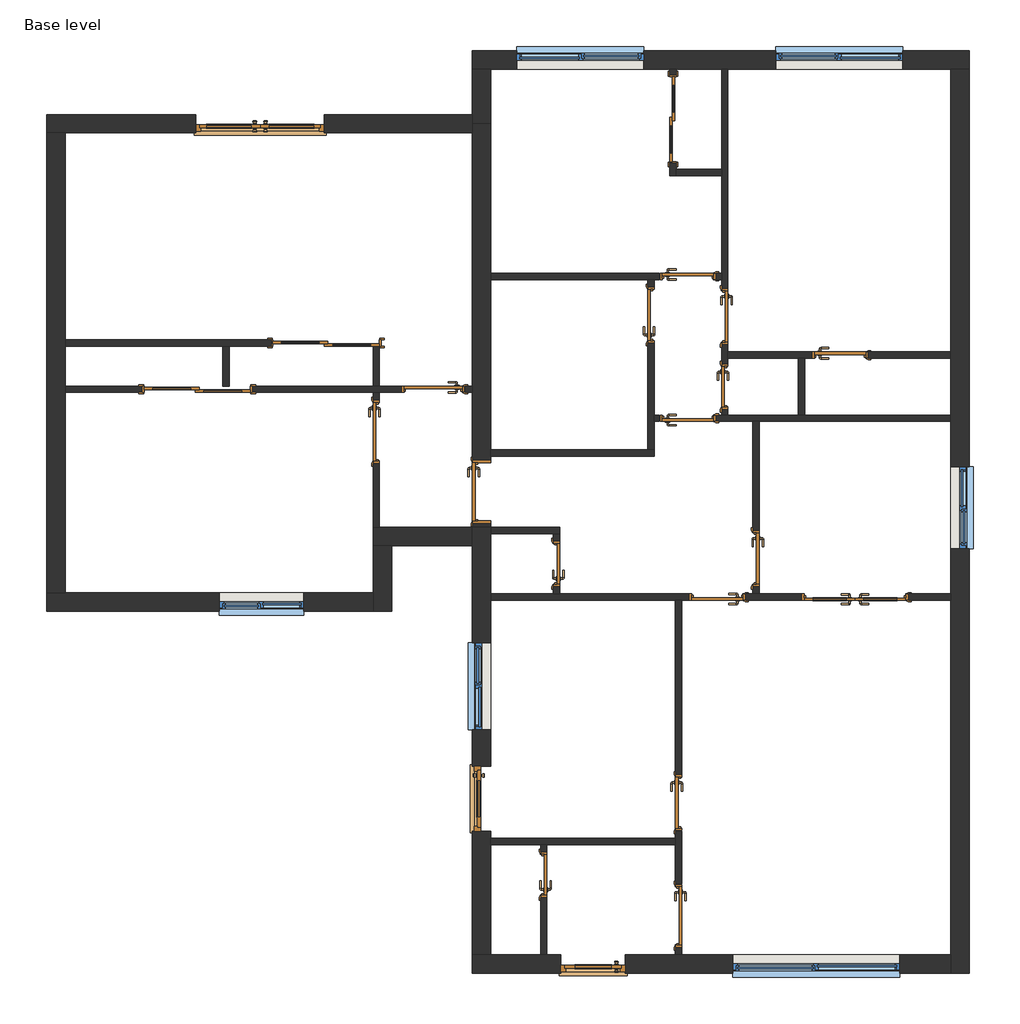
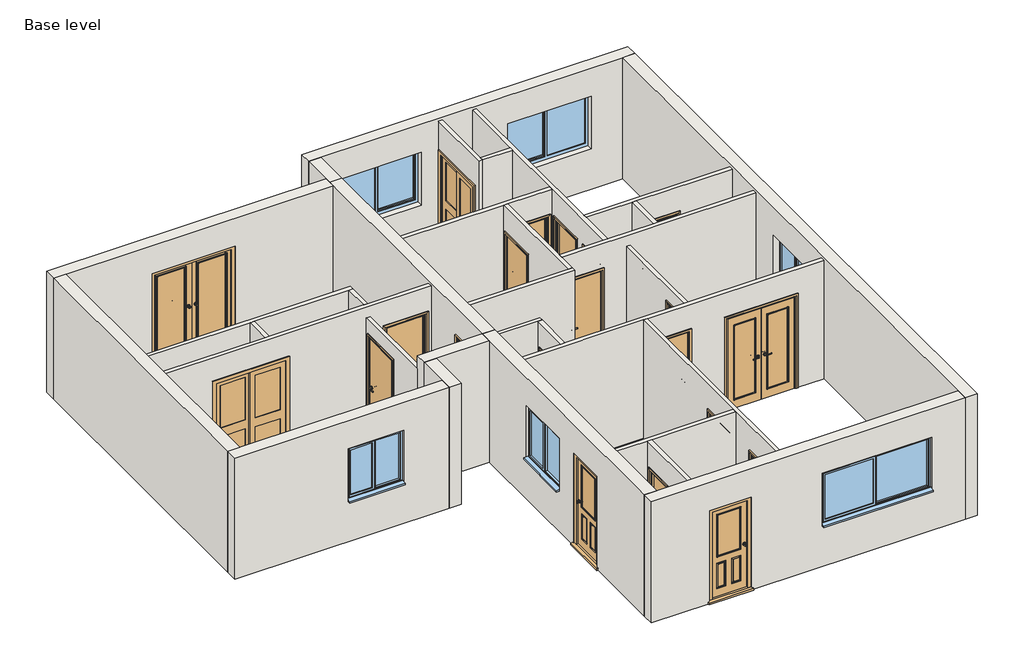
# One storey: 32 walls, 22 doors, 6 windows.
"""IFC4 building model written with IfcOpenShell, lengths in millimetres."""

from ifc_helpers import new_model, si_unit, frame, origin, origin_with_axes, place, context, project, spatial, polyline, outline, extrude, faceted_brep, transform, mapped, element, save
from components import doors_extdbl_w_glazing_bars_1_1810x2110mm_a288015c, doors_extsgl_w_glazing_bars_2_910x2110mm_256fbd00, doors_extsgl_w_glazing_bars_2_910x2110mm_80f539a4, doors_intdbl_7_1510x2110mm_5c3abf43, doors_intsgl_ds_650x2110mm_b960198f, doors_intsgl_ds_800x2110mm_b6fedfb1, doors_intsgl_ds_800x2110mm_65b095ba, doors_intsgl_ds_900x2110mm_f6cef332, doors_intsgl_ds_900x2110mm_836c2f7c, doors_intsgl_ds_900x2110mm_d1397bd0, m_door_interior_double_sliding_2_panel_wood_1200_x_2000mm_8d1b384f, m_door_interior_double_sliding_2_panel_wood_1500_x_2100mm_1f0085da, windows_concept_plain_dbl_ds_1150_x_1200_ffe28008, windows_concept_plain_dbl_ds_1190_x_1200_79a845ba, windows_concept_plain_dbl_ds_1220_x_1200_8969c727, windows_concept_plain_dbl_ds_1790_x_1200_683bd13a, windows_concept_plain_dbl_ds_1790_x_1200_d2fe6dab, windows_concept_plain_dbl_ds_2350_x_1200_e312b389

model = new_model("IFC4")

# Units and contexts
model_context = context("Model", 3, world=origin())
ifc_project = project(units=[si_unit("LENGTHUNIT", "METRE", prefix="MILLI")], contexts=[model_context])

# Site, building, storey
site = spatial("IfcSite", under=ifc_project)
building = spatial("IfcBuilding", under=site)
storey = spatial("IfcBuildingStorey", under=building, Name="Base level", Elevation=0.0)

# Doors
placement = place(None, origin())
doors_extdbl_w_glazing_bars_1_1810x2110mm_shape = doors_extdbl_w_glazing_bars_1_1810x2110mm_a288015c(model_context)
element("IfcDoor", 1, ObjectType="Doors_ExtDbl_w-Glazing_Bars_1 : 1810x2110mm", at=placement, inside=storey, context=model_context, shape_type="MappedRepresentation", body=[
    mapped(doors_extdbl_w_glazing_bars_1_1810x2110mm_shape, transform((1656.9262115, 11431.973125, 0.0), x_axis=(-1.0, 0.0, 0.0), y_axis=(0.0, -1.0, 0.0), z_axis=(0.0, 0.0, 1.0))),
])
doors_extsgl_w_glazing_bars_2_910x2110mm_shape = doors_extsgl_w_glazing_bars_2_910x2110mm_256fbd00(model_context)
element("IfcDoor", 2, ObjectType="Doors_ExtSgl_w-Glazing_Bars_2 : 910x2110mm", at=placement, inside=storey, context=model_context, shape_type="MappedRepresentation", body=[
    mapped(doors_extsgl_w_glazing_bars_2_910x2110mm_shape, transform((6346.9262115, -408.026875, 0.0), x_axis=(-1.0, 0.0, 0.0), y_axis=(0.0, -1.0, 0.0), z_axis=(0.0, 0.0, 1.0))),
])
doors_extsgl_w_glazing_bars_2_910x2110mm_2_shape = doors_extsgl_w_glazing_bars_2_910x2110mm_80f539a4(model_context)
element("IfcDoor", 3, ObjectType="Doors_ExtSgl_w-Glazing_Bars_2 : 910x2110mm", at=placement, inside=storey, context=model_context, shape_type="MappedRepresentation", body=[
    mapped(doors_extsgl_w_glazing_bars_2_910x2110mm_2_shape, transform((4776.9262115, 1921.973125, 0.0), x_axis=(0.0, -1.0, 0.0), y_axis=(1.0, 0.0, 0.0), z_axis=(0.0, 0.0, 1.0))),
])
doors_intdbl_7_1510x2110mm_shape = doors_intdbl_7_1510x2110mm_5c3abf43(model_context)
element("IfcDoor", 4, ObjectType="Doors_IntDbl_7 : 1510x2110mm", at=placement, inside=storey, context=model_context, shape_type="MappedRepresentation", body=[
    mapped(doors_intdbl_7_1510x2110mm_shape, transform((10036.9262115, 4761.973125, 0.0), x_axis=(-1.0, 0.0, 0.0), y_axis=(0.0, -1.0, 0.0), z_axis=(0.0, 0.0, 1.0))),
])
doors_intsgl_ds_650x2110mm_shape = doors_intsgl_ds_650x2110mm_b960198f(model_context)
element("IfcDoor", 5, ObjectType="Doors_IntSgl : DS - 650x2110mm", at=placement, inside=storey, context=model_context, shape_type="MappedRepresentation", body=[
    mapped(doors_intsgl_ds_650x2110mm_shape, transform((5831.9262115, 5231.973125, 0.0), x_axis=(0.0, 1.0, 0.0), y_axis=(-1.0, 0.0, 0.0), z_axis=(0.0, 0.0, 1.0))),
])
element("IfcDoor", 6, ObjectType="Doors_IntSgl : DS - 650x2110mm", at=placement, inside=storey, context=model_context, shape_type="MappedRepresentation", body=[
    mapped(doors_intsgl_ds_650x2110mm_shape, transform((5651.9262115, 851.973125, 0.0), x_axis=(0.0, 1.0, 0.0), y_axis=(-1.0, 0.0, 0.0), z_axis=(0.0, 0.0, 1.0))),
])
element("IfcDoor", 7, ObjectType="Doors_IntSgl : DS - 650x2110mm", at=placement, inside=storey, context=model_context, shape_type="MappedRepresentation", body=[
    mapped(doors_intsgl_ds_650x2110mm_shape, transform((8201.9262115, 7726.973125, 0.0), x_axis=(0.0, -1.0, 0.0), y_axis=(1.0, 0.0, 0.0), z_axis=(0.0, 0.0, 1.0))),
])
doors_intsgl_ds_800x2110mm_shape = doors_intsgl_ds_800x2110mm_b6fedfb1(model_context)
element("IfcDoor", 8, ObjectType="Doors_IntSgl : DS - 800x2110mm", at=placement, inside=storey, context=model_context, shape_type="MappedRepresentation", body=[
    mapped(doors_intsgl_ds_800x2110mm_shape, transform((7681.9262115, 7281.973125, 0.0), x_axis=(1.0, 0.0, 0.0), y_axis=(0.0, 1.0, 0.0), z_axis=(0.0, 0.0, 1.0))),
])
element("IfcDoor", 9, ObjectType="Doors_IntSgl : DS - 800x2110mm", at=placement, inside=storey, context=model_context, shape_type="MappedRepresentation", body=[
    mapped(doors_intsgl_ds_800x2110mm_shape, transform((7551.9262115, 1866.973125, 0.0), x_axis=(0.0, -1.0, 0.0), y_axis=(1.0, 0.0, 0.0), z_axis=(0.0, 0.0, 1.0))),
])
doors_intsgl_ds_800x2110mm_2_shape = doors_intsgl_ds_800x2110mm_65b095ba(model_context)
element("IfcDoor", 10, ObjectType="Doors_IntSgl : DS - 800x2110mm", at=placement, inside=storey, context=model_context, shape_type="MappedRepresentation", body=[
    mapped(doors_intsgl_ds_800x2110mm_2_shape, transform((8641.9262115, 5306.973125, 0.0), x_axis=(0.0, -1.0, 0.0), y_axis=(1.0, 0.0, 0.0), z_axis=(0.0, 0.0, 1.0))),
])
element("IfcDoor", 11, ObjectType="Doors_IntSgl : DS - 800x2110mm", at=placement, inside=storey, context=model_context, shape_type="MappedRepresentation", body=[
    mapped(doors_intsgl_ds_800x2110mm_2_shape, transform((9826.9262115, 8171.973125, 0.0), x_axis=(1.0, 0.0, 0.0), y_axis=(0.0, 1.0, 0.0), z_axis=(0.0, 0.0, 1.0))),
])
element("IfcDoor", 12, ObjectType="Doors_IntSgl : DS - 800x2110mm", at=placement, inside=storey, context=model_context, shape_type="MappedRepresentation", body=[
    mapped(doors_intsgl_ds_800x2110mm_2_shape, transform((8201.9262115, 8716.973125, 0.0), x_axis=(0.0, -1.0, 0.0), y_axis=(1.0, 0.0, 0.0), z_axis=(0.0, 0.0, 1.0))),
])
element("IfcDoor", 13, ObjectType="Doors_IntSgl : DS - 800x2110mm", at=placement, inside=storey, context=model_context, shape_type="MappedRepresentation", body=[
    mapped(doors_intsgl_ds_800x2110mm_2_shape, transform((7161.9262115, 8736.973125, 0.0), x_axis=(0.0, 1.0, 0.0), y_axis=(-1.0, 0.0, 0.0), z_axis=(0.0, 0.0, 1.0))),
])
element("IfcDoor", 14, ObjectType="Doors_IntSgl : DS - 800x2110mm", at=placement, inside=storey, context=model_context, shape_type="MappedRepresentation", body=[
    mapped(doors_intsgl_ds_800x2110mm_2_shape, transform((7681.9262115, 9281.973125, 0.0), x_axis=(1.0, 0.0, 0.0), y_axis=(0.0, 1.0, 0.0), z_axis=(0.0, 0.0, 1.0))),
])
element("IfcDoor", 15, ObjectType="Doors_IntSgl : DS - 800x2110mm", at=placement, inside=storey, context=model_context, shape_type="MappedRepresentation", body=[
    mapped(doors_intsgl_ds_800x2110mm_2_shape, transform((8096.9262115, 4761.973125, 0.0), x_axis=(-1.0, 0.0, 0.0), y_axis=(0.0, -1.0, 0.0), z_axis=(0.0, 0.0, 1.0))),
])
doors_intsgl_ds_900x2110mm_shape = doors_intsgl_ds_900x2110mm_f6cef332(model_context)
element("IfcDoor", 16, ObjectType="Doors_IntSgl : DS - 900x2110mm", at=placement, inside=storey, context=model_context, shape_type="MappedRepresentation", body=[
    mapped(doors_intsgl_ds_900x2110mm_shape, transform((7551.9262115, 271.973125, 0.0), x_axis=(0.0, -1.0, 0.0), y_axis=(1.0, 0.0, 0.0), z_axis=(0.0, 0.0, 1.0))),
])
doors_intsgl_ds_900x2110mm_2_shape = doors_intsgl_ds_900x2110mm_836c2f7c(model_context)
element("IfcDoor", 17, ObjectType="Doors_IntSgl : DS - 900x2110mm", at=placement, inside=storey, context=model_context, shape_type="MappedRepresentation", body=[
    mapped(doors_intsgl_ds_900x2110mm_2_shape, transform((3291.9262115, 7091.973125, 0.0), x_axis=(0.0, -1.0, 0.0), y_axis=(1.0, 0.0, 0.0), z_axis=(0.0, 0.0, 1.0))),
])
element("IfcDoor", 18, ObjectType="Doors_IntSgl : DS - 900x2110mm", at=placement, inside=storey, context=model_context, shape_type="MappedRepresentation", body=[
    mapped(doors_intsgl_ds_900x2110mm_2_shape, transform((4092.9262115, 7691.973125, 0.0), x_axis=(-1.0, 0.0, 0.0), y_axis=(0.0, -1.0, 0.0), z_axis=(0.0, 0.0, 1.0))),
])
doors_intsgl_ds_900x2110mm_3_shape = doors_intsgl_ds_900x2110mm_d1397bd0(model_context)
element("IfcDoor", 19, ObjectType="Doors_IntSgl : DS - 900x2110mm", at=placement, inside=storey, context=model_context, shape_type="MappedRepresentation", body=[
    mapped(doors_intsgl_ds_900x2110mm_3_shape, transform((4776.9262115, 6246.973125, 0.0), x_axis=(0.0, -1.0, 0.0), y_axis=(1.0, 0.0, 0.0), z_axis=(0.0, 0.0, 1.0))),
])
m_door_interior_double_sliding_2_panel_wood_1200_x_2000mm_shape = m_door_interior_double_sliding_2_panel_wood_1200_x_2000mm_8d1b384f(model_context)
element("IfcDoor", 20, ObjectType="M_Door-Interior-Double-Sliding-2_Panel-Wood : 1200 x 2000mm", at=placement, inside=storey, context=model_context, shape_type="MappedRepresentation", body=[
    mapped(m_door_interior_double_sliding_2_panel_wood_1200_x_2000mm_shape, transform((7468.7512115, 11496.973125, 0.0), x_axis=(0.0, 1.0, 0.0), y_axis=(-1.0, 0.0, 0.0), z_axis=(0.0, 0.0, 1.0))),
])
m_door_interior_double_sliding_2_panel_wood_1500_x_2100mm_shape = m_door_interior_double_sliding_2_panel_wood_1500_x_2100mm_1f0085da(model_context)
element("IfcDoor", 21, ObjectType="M_Door-Interior-Double-Sliding-2_Panel-Wood : 1500 x 2100mm", at=placement, inside=storey, context=model_context, shape_type="MappedRepresentation", body=[
    mapped(m_door_interior_double_sliding_2_panel_wood_1500_x_2100mm_shape, transform((2585.9262115, 8338.798125, 0.0), x_axis=(-1.0, 0.0, 0.0), y_axis=(0.0, -1.0, 0.0), z_axis=(0.0, 0.0, 1.0))),
])
element("IfcDoor", 22, ObjectType="M_Door-Interior-Double-Sliding-2_Panel-Wood : 1500 x 2100mm", at=placement, inside=storey, context=model_context, shape_type="MappedRepresentation", body=[
    mapped(m_door_interior_double_sliding_2_panel_wood_1500_x_2100mm_shape, transform((769.9262115, 7688.798125, 0.0), x_axis=(-1.0, 0.0, 0.0), y_axis=(0.0, -1.0, 0.0), z_axis=(0.0, 0.0, 1.0))),
])

# Walls
element("IfcWall", 23, ObjectType="Exterior Wall", at=placement, inside=storey, context=model_context, shape_type="Brep", body=[
    faceted_brep([(-1353.0737885, 11301.973125, 0.0), (-1093.0737885, 11301.973125, 0.0), (751.9262115, 11301.973125, 0.0), (751.9262115, 11301.973125, 2110.0), (2561.9262115, 11301.973125, 2110.0), (2561.9262115, 11301.973125, 0.0), (4646.9262115, 11301.973125, 0.0), (4646.9262115, 11301.973125, 2750.0), (-1093.0737885, 11301.973125, 2750.0), (-1353.0737885, 11301.973125, 2750.0), (751.9262115, 11561.973125, 2110.0), (751.9262115, 11561.973125, 0.0), (-1353.0737885, 11561.973125, 0.0), (-1353.0737885, 11561.973125, 2750.0), (4646.9262115, 11561.973125, 2750.0), (4646.9262115, 11561.973125, 0.0), (2561.9262115, 11561.973125, 0.0), (2561.9262115, 11561.973125, 2110.0), (4646.9262115, 11431.973125, 0.0), (4646.9262115, 11431.973125, 2750.0)], [[[0, 1, 2, 3, 4, 5, 6, 7, 8, 9]], [[10, 11, 12, 13, 14, 15, 16, 17]], [[16, 15, 18, 6, 5]], [[12, 11, 2, 1, 0]], [[9, 8, 7, 19, 14, 13]], [[0, 9, 13, 12]], [[5, 4, 17, 16]], [[3, 2, 11, 10]], [[4, 3, 10, 17]], [[7, 6, 18, 15, 14, 19]]]),
])
element("IfcWall", 24, ObjectType="Exterior Wall", at=placement, inside=storey, context=model_context, shape_type="Brep", body=[
    faceted_brep([(4646.9262115, 12201.973125, 0.0), (4906.9262115, 12201.973125, 0.0), (7426.9262115, 12201.973125, 0.0), (7516.9262115, 12201.973125, 0.0), (8156.9262115, 12201.973125, 0.0), (8246.9262115, 12201.973125, 0.0), (11386.9262115, 12201.973125, 0.0), (11646.9262115, 12201.973125, 0.0), (11646.9262115, 12201.973125, 2750.0), (11386.9262115, 12201.973125, 2750.0), (4906.9262115, 12201.973125, 2750.0), (4646.9262115, 12201.973125, 2750.0), (10711.9262115, 12201.973125, 2110.0), (10711.9262115, 12201.973125, 910.0), (8921.9262115, 12201.973125, 910.0), (8921.9262115, 12201.973125, 2110.0), (5271.9262115, 12201.973125, 2110.0), (7061.9262115, 12201.973125, 2110.0), (7061.9262115, 12201.973125, 910.0), (5271.9262115, 12201.973125, 910.0), (4646.9262115, 12461.973125, 0.0), (4646.9262115, 12461.973125, 2750.0), (11646.9262115, 12461.973125, 2750.0), (11646.9262115, 12461.973125, 0.0), (10711.9262115, 12461.973125, 2110.0), (8921.9262115, 12461.973125, 2110.0), (8921.9262115, 12461.973125, 910.0), (10711.9262115, 12461.973125, 910.0), (5271.9262115, 12461.973125, 2110.0), (5271.9262115, 12461.973125, 910.0), (7061.9262115, 12461.973125, 910.0), (7061.9262115, 12461.973125, 2110.0)], [[[0, 1, 2, 3, 4, 5, 6, 7, 8, 9, 10, 11], [12, 13, 14, 15], [16, 17, 18, 19]], [[20, 21, 22, 23], [24, 25, 26, 27], [28, 29, 30, 31]], [[7, 6, 5, 4, 3, 2, 1, 0, 20, 23]], [[11, 10, 9, 8, 22, 21]], [[8, 7, 23, 22]], [[0, 11, 21, 20]], [[13, 12, 24, 27]], [[14, 13, 27, 26]], [[15, 14, 26, 25]], [[12, 15, 25, 24]], [[29, 28, 16, 19]], [[30, 29, 19, 18]], [[31, 30, 18, 17]], [[28, 31, 17, 16]]]),
])
element("IfcWall", 25, ObjectType="Exterior Wall", at=placement, inside=storey, context=model_context, shape_type="Brep", body=[
    faceted_brep([(11386.9262115, 12201.973125, 0.0), (11386.9262115, 8216.973125, 0.0), (11386.9262115, 8126.973125, 0.0), (11386.9262115, 7326.973125, 0.0), (11386.9262115, 7236.973125, 0.0), (11386.9262115, 4806.973125, 0.0), (11386.9262115, 4716.973125, 0.0), (11386.9262115, -278.026875, 0.0), (11386.9262115, -538.026875, 0.0), (11386.9262115, -538.026875, 2750.0), (11386.9262115, -278.026875, 2750.0), (11386.9262115, 12201.973125, 2750.0), (11386.9262115, 6596.973125, 2110.0), (11386.9262115, 5446.973125, 2110.0), (11386.9262115, 5446.973125, 910.0), (11386.9262115, 6596.973125, 910.0), (11646.9262115, 12201.973125, 0.0), (11646.9262115, 12201.973125, 2750.0), (11646.9262115, -538.026875, 2750.0), (11646.9262115, -538.026875, 0.0), (11646.9262115, 6596.973125, 2110.0), (11646.9262115, 6596.973125, 910.0), (11646.9262115, 5446.973125, 910.0), (11646.9262115, 5446.973125, 2110.0)], [[[0, 1, 2, 3, 4, 5, 6, 7, 8, 9, 10, 11], [12, 13, 14, 15]], [[16, 17, 18, 19], [20, 21, 22, 23]], [[8, 7, 6, 5, 4, 3, 2, 1, 0, 16, 19]], [[11, 10, 9, 18, 17]], [[0, 11, 17, 16]], [[9, 8, 19, 18]], [[21, 20, 12, 15]], [[22, 21, 15, 14]], [[23, 22, 14, 13]], [[20, 23, 13, 12]]]),
])
element("IfcWall", 26, ObjectType="Exterior Wall", at=placement, inside=storey, context=model_context, shape_type="Brep", body=[
    faceted_brep([(5891.9262115, -278.026875, 2110.0), (5891.9262115, -278.026875, 0.0), (5696.9262115, -278.026875, 0.0), (5606.9262115, -278.026875, 0.0), (4906.9262115, -278.026875, 0.0), (4646.9262115, -278.026875, 0.0), (4646.9262115, -278.026875, 2750.0), (4906.9262115, -278.026875, 2750.0), (11386.9262115, -278.026875, 2750.0), (11386.9262115, -278.026875, 0.0), (7596.9262115, -278.026875, 0.0), (7506.9262115, -278.026875, 0.0), (6801.9262115, -278.026875, 0.0), (6801.9262115, -278.026875, 2110.0), (10666.9262115, -278.026875, 2110.0), (8316.9262115, -278.026875, 2110.0), (8316.9262115, -278.026875, 910.0), (10666.9262115, -278.026875, 910.0), (4646.9262115, -538.026875, 0.0), (5891.9262115, -538.026875, 0.0), (5891.9262115, -538.026875, 2110.0), (6801.9262115, -538.026875, 2110.0), (6801.9262115, -538.026875, 0.0), (11386.9262115, -538.026875, 0.0), (11386.9262115, -538.026875, 2750.0), (4646.9262115, -538.026875, 2750.0), (10666.9262115, -538.026875, 2110.0), (10666.9262115, -538.026875, 910.0), (8316.9262115, -538.026875, 910.0), (8316.9262115, -538.026875, 2110.0)], [[[0, 1, 2, 3, 4, 5, 6, 7, 8, 9, 10, 11, 12, 13], [14, 15, 16, 17]], [[18, 19, 20, 21, 22, 23, 24, 25], [26, 27, 28, 29]], [[5, 4, 3, 2, 1, 19, 18]], [[12, 11, 10, 9, 23, 22]], [[8, 7, 6, 25, 24]], [[9, 8, 24, 23]], [[6, 5, 18, 25]], [[22, 21, 13, 12]], [[20, 19, 1, 0]], [[21, 20, 0, 13]], [[27, 26, 14, 17]], [[28, 27, 17, 16]], [[29, 28, 16, 15]], [[26, 29, 15, 14]]]),
])
element("IfcWall", 27, ObjectType="Exterior Wall", at=placement, inside=storey, context=model_context, shape_type="Brep", body=[
    faceted_brep([(4906.9262115, -278.026875, 0.0), (4906.9262115, 1276.973125, 0.0), (4906.9262115, 1366.973125, 0.0), (4906.9262115, 1466.973125, 0.0), (4906.9262115, 1466.973125, 2110.0), (4906.9262115, 2376.973125, 2110.0), (4906.9262115, 2376.973125, 0.0), (4906.9262115, 4716.973125, 0.0), (4906.9262115, 4806.973125, 0.0), (4906.9262115, 5656.973125, 0.0), (4906.9262115, 5746.973125, 0.0), (4906.9262115, 5746.973125, 2690.0), (4906.9262115, 5746.973125, 2750.0), (4906.9262115, -278.026875, 2750.0), (4906.9262115, 2896.973125, 2110.0), (4906.9262115, 4116.973125, 2110.0), (4906.9262115, 4116.973125, 910.0), (4906.9262115, 2896.973125, 910.0), (4646.9262115, 1466.973125, 2110.0), (4646.9262115, 1466.973125, 0.0), (4646.9262115, -278.026875, 0.0), (4646.9262115, -278.026875, 2750.0), (4646.9262115, 5486.973125, 2750.0), (4646.9262115, 5746.973125, 2750.0), (4646.9262115, 5746.973125, 0.0), (4646.9262115, 5486.973125, 0.0), (4646.9262115, 2376.973125, 0.0), (4646.9262115, 2376.973125, 2110.0), (4646.9262115, 2896.973125, 2110.0), (4646.9262115, 2896.973125, 910.0), (4646.9262115, 4116.973125, 910.0), (4646.9262115, 4116.973125, 2110.0)], [[[0, 1, 2, 3, 4, 5, 6, 7, 8, 9, 10, 11, 12, 13], [14, 15, 16, 17]], [[18, 19, 20, 21, 22, 23, 24, 25, 26, 27], [28, 29, 30, 31]], [[20, 19, 3, 2, 1, 0]], [[26, 25, 24, 10, 9, 8, 7, 6]], [[13, 12, 23, 22, 21]], [[0, 13, 21, 20]], [[10, 24, 23, 12, 11]], [[6, 5, 27, 26]], [[4, 3, 19, 18]], [[5, 4, 18, 27]], [[29, 28, 14, 17]], [[30, 29, 17, 16]], [[31, 30, 16, 15]], [[28, 31, 15, 14]]]),
])
element("IfcWall", 28, ObjectType="Exterior Wall", at=placement, inside=storey, context=model_context, shape_type="Brep", body=[
    faceted_brep([(4646.9262115, 5746.973125, 2750.0), (4646.9262115, 5746.973125, 0.0), (3336.9262115, 5746.973125, 0.0), (3246.9262115, 5746.973125, 0.0), (3246.9262115, 5746.973125, 2450.0), (3246.9262115, 5746.973125, 2750.0), (4646.9262115, 5486.973125, 0.0), (4646.9262115, 5486.973125, 2750.0), (3506.9262115, 5486.973125, 2750.0), (3246.9262115, 5486.973125, 2750.0), (3246.9262115, 5486.973125, 0.0), (3506.9262115, 5486.973125, 0.0)], [[[0, 1, 2, 3, 4, 5]], [[6, 7, 8, 9, 10, 11]], [[3, 2, 1, 6, 11, 10]], [[0, 5, 9, 8, 7]], [[3, 10, 9, 5, 4]], [[0, 7, 6, 1]]]),
])
element("IfcWall", 29, ObjectType="Exterior Wall", at=placement, inside=storey, context=model_context, shape_type="Brep", body=[
    faceted_brep([(3246.9262115, 5486.973125, 2750.0), (3246.9262115, 5486.973125, 0.0), (3246.9262115, 4821.973125, 0.0), (3246.9262115, 4561.973125, 0.0), (3246.9262115, 4561.973125, 2750.0), (3246.9262115, 4821.973125, 2750.0), (3506.9262115, 5486.973125, 0.0), (3506.9262115, 5486.973125, 2750.0), (3506.9262115, 4561.973125, 2750.0), (3506.9262115, 4561.973125, 0.0)], [[[0, 1, 2, 3, 4, 5]], [[6, 7, 8, 9]], [[3, 2, 1, 6, 9]], [[0, 5, 4, 8, 7]], [[4, 3, 9, 8]], [[0, 7, 6, 1]]]),
])
element("IfcWall", 30, ObjectType="Exterior Wall", at=placement, inside=storey, context=model_context, shape_type="Brep", body=[
    faceted_brep([(3246.9262115, 4821.973125, 0.0), (-1093.0737885, 4821.973125, 0.0), (-1353.0737885, 4821.973125, 0.0), (-1353.0737885, 4821.973125, 2750.0), (-1093.0737885, 4821.973125, 2750.0), (3246.9262115, 4821.973125, 2750.0), (2272.9262115, 4821.973125, 2110.0), (1082.9262115, 4821.973125, 2110.0), (1082.9262115, 4821.973125, 910.0), (2272.9262115, 4821.973125, 910.0), (3246.9262115, 4561.973125, 0.0), (3246.9262115, 4561.973125, 2750.0), (-1353.0737885, 4561.973125, 2750.0), (-1353.0737885, 4561.973125, 0.0), (2272.9262115, 4561.973125, 2110.0), (2272.9262115, 4561.973125, 910.0), (1082.9262115, 4561.973125, 910.0), (1082.9262115, 4561.973125, 2110.0)], [[[0, 1, 2, 3, 4, 5], [6, 7, 8, 9]], [[10, 11, 12, 13], [14, 15, 16, 17]], [[2, 1, 0, 10, 13]], [[5, 4, 3, 12, 11]], [[0, 5, 11, 10]], [[3, 2, 13, 12]], [[15, 14, 6, 9]], [[16, 15, 9, 8]], [[17, 16, 8, 7]], [[14, 17, 7, 6]]]),
])
element("IfcWall", 31, ObjectType="Exterior Wall", at=placement, inside=storey, context=model_context, shape_type="Brep", body=[
    faceted_brep([(-1093.0737885, 4821.973125, 0.0), (-1093.0737885, 7646.973125, 0.0), (-1093.0737885, 7736.973125, 0.0), (-1093.0737885, 8296.973125, 0.0), (-1093.0737885, 8386.973125, 0.0), (-1093.0737885, 11301.973125, 0.0), (-1093.0737885, 11301.973125, 2750.0), (-1093.0737885, 4821.973125, 2750.0), (-1353.0737885, 4821.973125, 0.0), (-1353.0737885, 4821.973125, 2750.0), (-1353.0737885, 11301.973125, 2750.0), (-1353.0737885, 11301.973125, 0.0)], [[[0, 1, 2, 3, 4, 5, 6, 7]], [[8, 9, 10, 11]], [[5, 4, 3, 2, 1, 0, 8, 11]], [[7, 6, 10, 9]], [[6, 5, 11, 10]], [[0, 7, 9, 8]]]),
])
element("IfcWall", 32, ObjectType="Exterior Wall", at=placement, inside=storey, context=model_context, shape_type="Brep", body=[
    faceted_brep([(4646.9262115, 5746.973125, 2750.0), (4646.9262115, 11301.973125, 2750.0), (4646.9262115, 11431.973125, 2750.0), (4646.9262115, 11431.973125, 0.0), (4646.9262115, 11301.973125, 0.0), (4646.9262115, 7736.973125, 0.0), (4646.9262115, 7646.973125, 0.0), (4646.9262115, 6696.973125, 0.0), (4646.9262115, 6696.973125, 2110.0), (4646.9262115, 5796.973125, 2110.0), (4646.9262115, 5796.973125, 0.0), (4646.9262115, 5746.973125, 0.0), (4906.9262115, 11431.973125, 2750.0), (4906.9262115, 5746.973125, 2750.0), (4906.9262115, 5746.973125, 0.0), (4906.9262115, 5796.973125, 0.0), (4906.9262115, 5796.973125, 2110.0), (4906.9262115, 6696.973125, 2110.0), (4906.9262115, 6696.973125, 0.0), (4906.9262115, 6746.973125, 0.0), (4906.9262115, 6836.973125, 0.0), (4906.9262115, 9236.973125, 0.0), (4906.9262115, 9326.973125, 0.0), (4906.9262115, 11431.973125, 0.0)], [[[0, 1, 2, 3, 4, 5, 6, 7, 8, 9, 10, 11]], [[12, 13, 14, 15, 16, 17, 18, 19, 20, 21, 22, 23]], [[14, 11, 10, 15]], [[3, 23, 22, 21, 20, 19, 18, 7, 6, 5, 4]], [[2, 1, 0, 13, 12]], [[3, 2, 12, 23]], [[11, 14, 13, 0]], [[9, 16, 15, 10]], [[16, 9, 8, 17]], [[17, 8, 7, 18]]]),
])
element("IfcWall", 33, ObjectType="Exterior Wall", at=placement, inside=storey, context=model_context, shape_type="Brep", body=[
    faceted_brep([(4646.9262115, 12201.973125, 0.0), (4646.9262115, 11561.973125, 0.0), (4646.9262115, 11431.973125, 0.0), (4646.9262115, 11431.973125, 2750.0), (4646.9262115, 11561.973125, 2750.0), (4646.9262115, 12201.973125, 2750.0), (4906.9262115, 12201.973125, 0.0), (4906.9262115, 12201.973125, 2750.0), (4906.9262115, 11431.973125, 2750.0), (4906.9262115, 11431.973125, 0.0)], [[[0, 1, 2, 3, 4, 5]], [[6, 7, 8, 9]], [[2, 1, 0, 6, 9]], [[3, 2, 9, 8]], [[5, 4, 3, 8, 7]], [[0, 5, 7, 6]]]),
])
element("IfcWall", 34, ObjectType="Internal Stud Wall", at=placement, inside=storey, context=model_context, shape_type="Brep", body=[
    faceted_brep([(3336.9262115, 8296.973125, 2690.0), (3246.9262115, 8296.973125, 2690.0), (1221.9262115, 8296.973125, 2690.0), (1131.9262115, 8296.973125, 2690.0), (-1093.0737885, 8296.973125, 2690.0), (-1093.0737885, 8296.973125, 0.0), (1131.9262115, 8296.973125, 0.0), (1221.9262115, 8296.973125, 0.0), (1810.9262115, 8296.973125, 0.0), (1810.9262115, 8296.973125, 2125.0), (3336.9262115, 8296.973125, 2125.0), (-1093.0737885, 8386.973125, 2690.0), (3336.9262115, 8386.973125, 2690.0), (3336.9262115, 8386.973125, 2125.0), (1810.9262115, 8386.973125, 2125.0), (1810.9262115, 8386.973125, 0.0), (-1093.0737885, 8386.973125, 0.0)], [[[0, 1, 2, 3, 4, 5, 6, 7, 8, 9, 10]], [[11, 12, 13, 14, 15, 16]], [[5, 16, 15, 8, 7, 6]], [[4, 3, 2, 1, 0, 12, 11]], [[5, 4, 11, 16]], [[12, 0, 10, 13]], [[14, 9, 8, 15]], [[9, 14, 13, 10]]]),
])
element("IfcWall", 35, ObjectType="Internal Stud Wall", at=placement, inside=storey, context=model_context, shape_type="Brep", body=[
    faceted_brep([(4646.9262115, 7646.973125, 2690.0), (-1093.0737885, 7646.973125, 2690.0), (-1093.0737885, 7646.973125, 0.0), (-5.0737885, 7646.973125, 0.0), (-5.0737885, 7646.973125, 2125.0), (1544.9262115, 7646.973125, 2125.0), (1544.9262115, 7646.973125, 0.0), (3246.9262115, 7646.973125, 0.0), (3336.9262115, 7646.973125, 0.0), (3642.9262115, 7646.973125, 0.0), (3642.9262115, 7646.973125, 2110.0), (4542.9262115, 7646.973125, 2110.0), (4542.9262115, 7646.973125, 0.0), (4646.9262115, 7646.973125, 0.0), (-1093.0737885, 7736.973125, 2690.0), (1131.9262115, 7736.973125, 2690.0), (1221.9262115, 7736.973125, 2690.0), (3246.9262115, 7736.973125, 2690.0), (3336.9262115, 7736.973125, 2690.0), (4646.9262115, 7736.973125, 2690.0), (4646.9262115, 7736.973125, 0.0), (4542.9262115, 7736.973125, 0.0), (4542.9262115, 7736.973125, 2110.0), (3642.9262115, 7736.973125, 2110.0), (3642.9262115, 7736.973125, 0.0), (3336.9262115, 7736.973125, 0.0), (3246.9262115, 7736.973125, 0.0), (1544.9262115, 7736.973125, 0.0), (1544.9262115, 7736.973125, 2125.0), (-5.0737885, 7736.973125, 2125.0), (-5.0737885, 7736.973125, 0.0), (-1093.0737885, 7736.973125, 0.0)], [[[0, 1, 2, 3, 4, 5, 6, 7, 8, 9, 10, 11, 12, 13]], [[14, 15, 16, 17, 18, 19, 20, 21, 22, 23, 24, 25, 26, 27, 28, 29, 30, 31]], [[2, 31, 30, 3]], [[20, 13, 12, 21]], [[24, 9, 8, 7, 6, 27, 26, 25]], [[1, 0, 19, 18, 17, 16, 15, 14]], [[2, 1, 14, 31]], [[0, 13, 20, 19]], [[23, 10, 9, 24]], [[10, 23, 22, 11]], [[11, 22, 21, 12]], [[29, 4, 3, 30]], [[4, 29, 28, 5]], [[5, 28, 27, 6]]]),
])
element("IfcWall", 36, ObjectType="Internal Stud Wall", at=placement, inside=storey, context=model_context, shape_type="Brep", body=[
    faceted_brep([(3246.9262115, 8296.973125, 0.0), (3246.9262115, 7736.973125, 0.0), (3246.9262115, 7736.973125, 2690.0), (3246.9262115, 8296.973125, 2690.0), (3336.9262115, 8296.973125, 0.0), (3336.9262115, 8296.973125, 2125.0), (3336.9262115, 8296.973125, 2690.0), (3336.9262115, 7736.973125, 2690.0), (3336.9262115, 7736.973125, 0.0)], [[[0, 1, 2, 3]], [[4, 5, 6, 7, 8]], [[1, 0, 4, 8]], [[3, 2, 7, 6]], [[2, 1, 8, 7]], [[0, 3, 6, 5, 4]]]),
])
element("IfcWall", 37, ObjectType="Internal Stud Wall", at=placement, inside=storey, context=model_context, shape_type="SweptSolid", body=[
    extrude(outline(polyline([(1131.9262115, 7736.973125), (1131.9262115, 8296.973125), (1221.9262115, 8296.973125), (1221.9262115, 7736.973125), (1131.9262115, 7736.973125)])), origin_with_axes(), (0.0, 0.0, 1.0), 2690.0),
])
element("IfcWall", 38, ObjectType="Internal Stud Wall", at=placement, inside=storey, context=model_context, shape_type="SweptSolid", body=[
    extrude(outline(polyline([(5746.973125, 2450.0), (7646.973125, 2450.0), (7646.973125, 0.0), (7541.973125, 0.0), (7541.973125, 2110.0), (6641.973125, 2110.0), (6641.973125, 0.0), (5746.973125, 0.0), (5746.973125, 2450.0)])), frame((3246.9262115, 0.0, 0.0), z_axis=(1.0, 0.0, 0.0), x_axis=(0.0, 1.0, 0.0)), (0.0, 0.0, 1.0), 90.0),
])
element("IfcWall", 39, ObjectType="Internal Stud Wall", at=placement, inside=storey, context=model_context, shape_type="Brep", body=[
    faceted_brep([(4906.9262115, 1276.973125, 0.0), (5606.9262115, 1276.973125, 0.0), (5696.9262115, 1276.973125, 0.0), (7506.9262115, 1276.973125, 0.0), (7506.9262115, 1276.973125, 2690.0), (5696.9262115, 1276.973125, 2690.0), (5606.9262115, 1276.973125, 2690.0), (4906.9262115, 1276.973125, 2690.0), (4906.9262115, 1366.973125, 0.0), (4906.9262115, 1366.973125, 2690.0), (7506.9262115, 1366.973125, 2690.0), (7506.9262115, 1366.973125, 0.0)], [[[0, 1, 2, 3, 4, 5, 6, 7]], [[8, 9, 10, 11]], [[3, 2, 1, 0, 8, 11]], [[7, 6, 5, 4, 10, 9]], [[0, 7, 9, 8]], [[4, 3, 11, 10]]]),
])
element("IfcWall", 40, ObjectType="Internal Stud Wall", at=placement, inside=storey, context=model_context, shape_type="Brep", body=[
    faceted_brep([(11386.9262115, 4716.973125, 2690.0), (7596.9262115, 4716.973125, 2690.0), (7506.9262115, 4716.973125, 2690.0), (4906.9262115, 4716.973125, 2690.0), (4906.9262115, 4716.973125, 0.0), (7506.9262115, 4716.973125, 0.0), (7596.9262115, 4716.973125, 0.0), (7696.9262115, 4716.973125, 0.0), (7696.9262115, 4716.973125, 2110.0), (8496.9262115, 4716.973125, 2110.0), (8496.9262115, 4716.973125, 0.0), (9281.9262115, 4716.973125, 0.0), (9281.9262115, 4716.973125, 2110.0), (10791.9262115, 4716.973125, 2110.0), (10791.9262115, 4716.973125, 0.0), (11386.9262115, 4716.973125, 0.0), (4906.9262115, 4806.973125, 2690.0), (5786.9262115, 4806.973125, 2690.0), (5876.9262115, 4806.973125, 2690.0), (11386.9262115, 4806.973125, 2690.0), (11386.9262115, 4806.973125, 0.0), (10791.9262115, 4806.973125, 0.0), (10791.9262115, 4806.973125, 2110.0), (9281.9262115, 4806.973125, 2110.0), (9281.9262115, 4806.973125, 0.0), (8686.9262115, 4806.973125, 0.0), (8596.9262115, 4806.973125, 0.0), (8496.9262115, 4806.973125, 0.0), (8496.9262115, 4806.973125, 2110.0), (7696.9262115, 4806.973125, 2110.0), (7696.9262115, 4806.973125, 0.0), (5876.9262115, 4806.973125, 0.0), (5786.9262115, 4806.973125, 0.0), (4906.9262115, 4806.973125, 0.0)], [[[0, 1, 2, 3, 4, 5, 6, 7, 8, 9, 10, 11, 12, 13, 14, 15]], [[16, 17, 18, 19, 20, 21, 22, 23, 24, 25, 26, 27, 28, 29, 30, 31, 32, 33]], [[4, 33, 32, 31, 30, 7, 6, 5]], [[20, 15, 14, 21]], [[10, 27, 26, 25, 24, 11]], [[3, 2, 1, 0, 19, 18, 17, 16]], [[0, 15, 20, 19]], [[4, 3, 16, 33]], [[29, 8, 7, 30]], [[8, 29, 28, 9]], [[9, 28, 27, 10]], [[23, 12, 11, 24]], [[12, 23, 22, 13]], [[13, 22, 21, 14]]]),
])
element("IfcWall", 41, ObjectType="Internal Stud Wall", at=placement, inside=storey, context=model_context, shape_type="Brep", body=[
    faceted_brep([(7506.9262115, -278.026875, 2690.0), (7506.9262115, 1276.973125, 2690.0), (7506.9262115, 1366.973125, 2690.0), (7506.9262115, 4716.973125, 2690.0), (7506.9262115, 4716.973125, 0.0), (7506.9262115, 2266.973125, 0.0), (7506.9262115, 2266.973125, 2110.0), (7506.9262115, 1466.973125, 2110.0), (7506.9262115, 1466.973125, 0.0), (7506.9262115, 1366.973125, 0.0), (7506.9262115, 1276.973125, 0.0), (7506.9262115, 721.973125, 0.0), (7506.9262115, 721.973125, 2110.0), (7506.9262115, -178.026875, 2110.0), (7506.9262115, -178.026875, 0.0), (7506.9262115, -278.026875, 0.0), (7596.9262115, 4716.973125, 2690.0), (7596.9262115, -278.026875, 2690.0), (7596.9262115, -278.026875, 0.0), (7596.9262115, -178.026875, 0.0), (7596.9262115, -178.026875, 2110.0), (7596.9262115, 721.973125, 2110.0), (7596.9262115, 721.973125, 0.0), (7596.9262115, 1466.973125, 0.0), (7596.9262115, 1466.973125, 2110.0), (7596.9262115, 2266.973125, 2110.0), (7596.9262115, 2266.973125, 0.0), (7596.9262115, 4716.973125, 0.0)], [[[0, 1, 2, 3, 4, 5, 6, 7, 8, 9, 10, 11, 12, 13, 14, 15]], [[16, 17, 18, 19, 20, 21, 22, 23, 24, 25, 26, 27]], [[4, 27, 26, 5]], [[18, 15, 14, 19]], [[22, 11, 10, 9, 8, 23]], [[3, 2, 1, 0, 17, 16]], [[0, 15, 18, 17]], [[4, 3, 16, 27]], [[13, 20, 19, 14]], [[20, 13, 12, 21]], [[21, 12, 11, 22]], [[7, 24, 23, 8]], [[24, 7, 6, 25]], [[25, 6, 5, 26]]]),
])
element("IfcWall", 42, ObjectType="Internal Stud Wall", at=placement, inside=storey, context=model_context, shape_type="SweptSolid", body=[
    extrude(outline(polyline([(-278.026875, 2690.0), (1276.973125, 2690.0), (1276.973125, 0.0), (1176.973125, 0.0), (1176.973125, 2110.0), (526.973125, 2110.0), (526.973125, 0.0), (-278.026875, 0.0), (-278.026875, 2690.0)])), frame((5606.9262115, 0.0, 0.0), z_axis=(1.0, 0.0, 0.0), x_axis=(0.0, 1.0, 0.0)), (0.0, 0.0, 1.0), 90.0),
])
element("IfcWall", 43, ObjectType="Internal Stud Wall", at=placement, inside=storey, context=model_context, shape_type="Brep", body=[
    faceted_brep([(4906.9262115, 5656.973125, 0.0), (5786.9262115, 5656.973125, 0.0), (5876.9262115, 5656.973125, 0.0), (5876.9262115, 5656.973125, 2690.0), (5786.9262115, 5656.973125, 2690.0), (4906.9262115, 5656.973125, 2690.0), (4906.9262115, 5746.973125, 0.0), (4906.9262115, 5746.973125, 2690.0), (5876.9262115, 5746.973125, 2690.0), (5876.9262115, 5746.973125, 0.0)], [[[0, 1, 2, 3, 4, 5]], [[6, 7, 8, 9]], [[2, 1, 0, 6, 9]], [[5, 4, 3, 8, 7]], [[0, 5, 7, 6]], [[3, 2, 9, 8]]]),
])
element("IfcWall", 44, ObjectType="Internal Stud Wall", at=placement, inside=storey, context=model_context, shape_type="SweptSolid", body=[
    extrude(outline(polyline([(4806.973125, 2690.0), (5656.973125, 2690.0), (5656.973125, 0.0), (5556.973125, 0.0), (5556.973125, 2110.0), (4906.973125, 2110.0), (4906.973125, 0.0), (4806.973125, 0.0), (4806.973125, 2690.0)])), frame((5786.9262115, 0.0, 0.0), z_axis=(1.0, 0.0, 0.0), x_axis=(0.0, 1.0, 0.0)), (0.0, 0.0, 1.0), 90.0),
])
element("IfcWall", 45, ObjectType="Internal Stud Wall", at=placement, inside=storey, context=model_context, shape_type="Brep", body=[
    faceted_brep([(4906.9262115, 6746.973125, 0.0), (7206.9262115, 6746.973125, 0.0), (7206.9262115, 6746.973125, 2690.0), (4906.9262115, 6746.973125, 2690.0), (4906.9262115, 6836.973125, 0.0), (4906.9262115, 6836.973125, 2690.0), (7116.9262115, 6836.973125, 2690.0), (7206.9262115, 6836.973125, 2690.0), (7206.9262115, 6836.973125, 0.0), (7116.9262115, 6836.973125, 0.0)], [[[0, 1, 2, 3]], [[4, 5, 6, 7, 8, 9]], [[1, 0, 4, 9, 8]], [[3, 2, 7, 6, 5]], [[0, 3, 5, 4]], [[2, 1, 8, 7]]]),
])
element("IfcWall", 46, ObjectType="Internal Stud Wall", at=placement, inside=storey, context=model_context, shape_type="Brep", body=[
    faceted_brep([(7206.9262115, 9236.973125, 2690.0), (7206.9262115, 7326.973125, 2690.0), (7206.9262115, 7236.973125, 2690.0), (7206.9262115, 6836.973125, 2690.0), (7206.9262115, 6836.973125, 0.0), (7206.9262115, 7236.973125, 0.0), (7206.9262115, 7326.973125, 0.0), (7206.9262115, 8336.973125, 0.0), (7206.9262115, 8336.973125, 2110.0), (7206.9262115, 9136.973125, 2110.0), (7206.9262115, 9136.973125, 0.0), (7206.9262115, 9236.973125, 0.0), (7116.9262115, 6836.973125, 2690.0), (7116.9262115, 9236.973125, 2690.0), (7116.9262115, 9236.973125, 0.0), (7116.9262115, 9136.973125, 0.0), (7116.9262115, 9136.973125, 2110.0), (7116.9262115, 8336.973125, 2110.0), (7116.9262115, 8336.973125, 0.0), (7116.9262115, 6836.973125, 0.0)], [[[0, 1, 2, 3, 4, 5, 6, 7, 8, 9, 10, 11]], [[12, 13, 14, 15, 16, 17, 18, 19]], [[4, 19, 18, 7, 6, 5]], [[14, 11, 10, 15]], [[3, 2, 1, 0, 13, 12]], [[4, 3, 12, 19]], [[0, 11, 14, 13]], [[9, 16, 15, 10]], [[16, 9, 8, 17]], [[17, 8, 7, 18]]]),
])
element("IfcWall", 47, ObjectType="Internal Stud Wall", at=placement, inside=storey, context=model_context, shape_type="Brep", body=[
    faceted_brep([(8156.9262115, 9236.973125, 2690.0), (7206.9262115, 9236.973125, 2690.0), (7116.9262115, 9236.973125, 2690.0), (4906.9262115, 9236.973125, 2690.0), (4906.9262115, 9236.973125, 0.0), (7116.9262115, 9236.973125, 0.0), (7206.9262115, 9236.973125, 0.0), (7281.9262115, 9236.973125, 0.0), (7281.9262115, 9236.973125, 2110.0), (8081.9262115, 9236.973125, 2110.0), (8081.9262115, 9236.973125, 0.0), (8156.9262115, 9236.973125, 0.0), (4906.9262115, 9326.973125, 2690.0), (8156.9262115, 9326.973125, 2690.0), (8156.9262115, 9326.973125, 0.0), (8081.9262115, 9326.973125, 0.0), (8081.9262115, 9326.973125, 2110.0), (7281.9262115, 9326.973125, 2110.0), (7281.9262115, 9326.973125, 0.0), (4906.9262115, 9326.973125, 0.0)], [[[0, 1, 2, 3, 4, 5, 6, 7, 8, 9, 10, 11]], [[12, 13, 14, 15, 16, 17, 18, 19]], [[14, 11, 10, 15]], [[4, 19, 18, 7, 6, 5]], [[3, 2, 1, 0, 13, 12]], [[4, 3, 12, 19]], [[0, 11, 14, 13]], [[9, 16, 15, 10]], [[16, 9, 8, 17]], [[17, 8, 7, 18]]]),
])
element("IfcWall", 48, ObjectType="Internal Stud Wall", at=placement, inside=storey, context=model_context, shape_type="Brep", body=[
    faceted_brep([(11386.9262115, 7236.973125, 2690.0), (7206.9262115, 7236.973125, 2690.0), (7206.9262115, 7236.973125, 0.0), (7281.9262115, 7236.973125, 0.0), (7281.9262115, 7236.973125, 2110.0), (8081.9262115, 7236.973125, 2110.0), (8081.9262115, 7236.973125, 0.0), (8596.9262115, 7236.973125, 0.0), (8686.9262115, 7236.973125, 0.0), (11386.9262115, 7236.973125, 0.0), (7206.9262115, 7326.973125, 2690.0), (8156.9262115, 7326.973125, 2690.0), (8246.9262115, 7326.973125, 2690.0), (9236.9262115, 7326.973125, 2690.0), (9326.9262115, 7326.973125, 2690.0), (11386.9262115, 7326.973125, 2690.0), (11386.9262115, 7326.973125, 0.0), (9326.9262115, 7326.973125, 0.0), (9236.9262115, 7326.973125, 0.0), (8246.9262115, 7326.973125, 0.0), (8156.9262115, 7326.973125, 0.0), (8081.9262115, 7326.973125, 0.0), (8081.9262115, 7326.973125, 2110.0), (7281.9262115, 7326.973125, 2110.0), (7281.9262115, 7326.973125, 0.0), (7206.9262115, 7326.973125, 0.0)], [[[0, 1, 2, 3, 4, 5, 6, 7, 8, 9]], [[10, 11, 12, 13, 14, 15, 16, 17, 18, 19, 20, 21, 22, 23, 24, 25]], [[2, 25, 24, 3]], [[16, 9, 8, 7, 6, 21, 20, 19, 18, 17]], [[1, 0, 15, 14, 13, 12, 11, 10]], [[0, 9, 16, 15]], [[2, 1, 10, 25]], [[5, 22, 21, 6]], [[22, 5, 4, 23]], [[23, 4, 3, 24]]]),
])
element("IfcWall", 49, ObjectType="Internal Stud Wall", at=placement, inside=storey, context=model_context, shape_type="SweptSolid", body=[
    extrude(outline(polyline([(4806.973125, 2450.0), (7236.973125, 2450.0), (7236.973125, 0.0), (5706.973125, 0.0), (5706.973125, 2110.0), (4906.973125, 2110.0), (4906.973125, 0.0), (4806.973125, 0.0), (4806.973125, 2450.0)])), frame((8596.9262115, 0.0, 0.0), z_axis=(1.0, 0.0, 0.0), x_axis=(0.0, 1.0, 0.0)), (0.0, 0.0, 1.0), 90.0),
])
element("IfcWall", 50, ObjectType="Internal Stud Wall", at=placement, inside=storey, context=model_context, shape_type="Brep", body=[
    faceted_brep([(8156.9262115, 7326.973125, 2690.0), (8156.9262115, 9236.973125, 2690.0), (8156.9262115, 9326.973125, 2690.0), (8156.9262115, 10701.973125, 2690.0), (8156.9262115, 10791.973125, 2690.0), (8156.9262115, 12201.973125, 2690.0), (8156.9262115, 12201.973125, 0.0), (8156.9262115, 10791.973125, 0.0), (8156.9262115, 10701.973125, 0.0), (8156.9262115, 9326.973125, 0.0), (8156.9262115, 9236.973125, 0.0), (8156.9262115, 9116.973125, 0.0), (8156.9262115, 9116.973125, 2110.0), (8156.9262115, 8316.973125, 2110.0), (8156.9262115, 8316.973125, 0.0), (8156.9262115, 8051.973125, 0.0), (8156.9262115, 8051.973125, 2110.0), (8156.9262115, 7401.973125, 2110.0), (8156.9262115, 7401.973125, 0.0), (8156.9262115, 7326.973125, 0.0), (8246.9262115, 12201.973125, 2690.0), (8246.9262115, 8216.973125, 2690.0), (8246.9262115, 8126.973125, 2690.0), (8246.9262115, 7326.973125, 2690.0), (8246.9262115, 7326.973125, 0.0), (8246.9262115, 7401.973125, 0.0), (8246.9262115, 7401.973125, 2110.0), (8246.9262115, 8051.973125, 2110.0), (8246.9262115, 8051.973125, 0.0), (8246.9262115, 8126.973125, 0.0), (8246.9262115, 8216.973125, 0.0), (8246.9262115, 8316.973125, 0.0), (8246.9262115, 8316.973125, 2110.0), (8246.9262115, 9116.973125, 2110.0), (8246.9262115, 9116.973125, 0.0), (8246.9262115, 12201.973125, 0.0)], [[[0, 1, 2, 3, 4, 5, 6, 7, 8, 9, 10, 11, 12, 13, 14, 15, 16, 17, 18, 19]], [[20, 21, 22, 23, 24, 25, 26, 27, 28, 29, 30, 31, 32, 33, 34, 35]], [[24, 19, 18, 25]], [[6, 35, 34, 11, 10, 9, 8, 7]], [[28, 15, 14, 31, 30, 29]], [[5, 4, 3, 2, 1, 0, 23, 22, 21, 20]], [[6, 5, 20, 35]], [[0, 19, 24, 23]], [[18, 17, 26, 25]], [[17, 16, 27, 26]], [[16, 15, 28, 27]], [[13, 32, 31, 14]], [[32, 13, 12, 33]], [[33, 12, 11, 34]]]),
])
element("IfcWall", 51, ObjectType="Internal Stud Wall", at=placement, inside=storey, context=model_context, shape_type="Brep", body=[
    faceted_brep([(7426.9262115, 10701.973125, 2690.0), (7426.9262115, 12201.973125, 2690.0), (7426.9262115, 12201.973125, 0.0), (7426.9262115, 12121.973125, 0.0), (7426.9262115, 12121.973125, 2025.0), (7426.9262115, 10871.973125, 2025.0), (7426.9262115, 10871.973125, 0.0), (7426.9262115, 10701.973125, 0.0), (7516.9262115, 12201.973125, 2690.0), (7516.9262115, 10791.973125, 2690.0), (7516.9262115, 10701.973125, 2690.0), (7516.9262115, 10701.973125, 0.0), (7516.9262115, 10791.973125, 0.0), (7516.9262115, 10871.973125, 0.0), (7516.9262115, 10871.973125, 2025.0), (7516.9262115, 12121.973125, 2025.0), (7516.9262115, 12121.973125, 0.0), (7516.9262115, 12201.973125, 0.0)], [[[0, 1, 2, 3, 4, 5, 6, 7]], [[8, 9, 10, 11, 12, 13, 14, 15, 16, 17]], [[11, 7, 6, 13, 12]], [[2, 17, 16, 3]], [[1, 0, 10, 9, 8]], [[2, 1, 8, 17]], [[0, 7, 11, 10]], [[15, 4, 3, 16]], [[4, 15, 14, 5]], [[5, 14, 13, 6]]]),
])
element("IfcWall", 52, ObjectType="Internal Stud Wall", at=placement, inside=storey, context=model_context, shape_type="SweptSolid", body=[
    extrude(outline(polyline([(7516.9262115, 10791.973125), (8156.9262115, 10791.973125), (8156.9262115, 10701.973125), (7516.9262115, 10701.973125), (7516.9262115, 10791.973125)])), origin_with_axes(), (0.0, 0.0, 1.0), 2690.0),
])
element("IfcWall", 53, ObjectType="Internal Stud Wall", at=placement, inside=storey, context=model_context, shape_type="Brep", body=[
    faceted_brep([(11386.9262115, 8126.973125, 2690.0), (9326.9262115, 8126.973125, 2690.0), (9236.9262115, 8126.973125, 2690.0), (8246.9262115, 8126.973125, 2690.0), (8246.9262115, 8126.973125, 0.0), (9236.9262115, 8126.973125, 0.0), (9326.9262115, 8126.973125, 0.0), (9426.9262115, 8126.973125, 0.0), (9426.9262115, 8126.973125, 2110.0), (10226.9262115, 8126.973125, 2110.0), (10226.9262115, 8126.973125, 0.0), (11386.9262115, 8126.973125, 0.0), (8246.9262115, 8216.973125, 2690.0), (11386.9262115, 8216.973125, 2690.0), (11386.9262115, 8216.973125, 0.0), (10226.9262115, 8216.973125, 0.0), (10226.9262115, 8216.973125, 2110.0), (9426.9262115, 8216.973125, 2110.0), (9426.9262115, 8216.973125, 0.0), (8246.9262115, 8216.973125, 0.0)], [[[0, 1, 2, 3, 4, 5, 6, 7, 8, 9, 10, 11]], [[12, 13, 14, 15, 16, 17, 18, 19]], [[4, 19, 18, 7, 6, 5]], [[14, 11, 10, 15]], [[3, 2, 1, 0, 13, 12]], [[0, 11, 14, 13]], [[4, 3, 12, 19]], [[9, 16, 15, 10]], [[16, 9, 8, 17]], [[17, 8, 7, 18]]]),
])
element("IfcWall", 54, ObjectType="Internal Stud Wall", at=placement, inside=storey, context=model_context, shape_type="SweptSolid", body=[
    extrude(outline(polyline([(9236.9262115, 7326.973125), (9236.9262115, 8126.973125), (9326.9262115, 8126.973125), (9326.9262115, 7326.973125), (9236.9262115, 7326.973125)])), origin_with_axes(), (0.0, 0.0, 1.0), 2690.0),
])

# Windows
windows_concept_plain_dbl_ds_1150_x_1200_shape = windows_concept_plain_dbl_ds_1150_x_1200_ffe28008(model_context)
element("IfcWindow", 55, ObjectType="Windows_Concept_Plain_Dbl : ds - 1150 x 1200", at=placement, inside=storey, context=model_context, shape_type="MappedRepresentation", body=[
    mapped(windows_concept_plain_dbl_ds_1150_x_1200_shape, transform((11508.4696436, 5736.973125, 0.0), x_axis=(0.0, -1.0, 0.0), y_axis=(1.0, 0.0, 0.0), z_axis=(0.0, 0.0, 1.0))),
])
windows_concept_plain_dbl_ds_1190_x_1200_shape = windows_concept_plain_dbl_ds_1190_x_1200_79a845ba(model_context)
element("IfcWindow", 56, ObjectType="Windows_Concept_Plain_Dbl : ds - 1190 x 1200", at=placement, inside=storey, context=model_context, shape_type="MappedRepresentation", body=[
    mapped(windows_concept_plain_dbl_ds_1190_x_1200_shape, transform((1392.9262115, 4700.4296929, 0.0), x_axis=(-1.0, 0.0, 0.0), y_axis=(0.0, -1.0, 0.0), z_axis=(0.0, 0.0, 1.0))),
])
windows_concept_plain_dbl_ds_1220_x_1200_shape = windows_concept_plain_dbl_ds_1220_x_1200_8969c727(model_context)
element("IfcWindow", 57, ObjectType="Windows_Concept_Plain_Dbl : ds - 1220 x 1200", at=placement, inside=storey, context=model_context, shape_type="MappedRepresentation", body=[
    mapped(windows_concept_plain_dbl_ds_1220_x_1200_shape, transform((4785.3827793, 3791.973125, 0.0), x_axis=(0.0, 1.0, 0.0), y_axis=(-1.0, 0.0, 0.0), z_axis=(0.0, 0.0, 1.0))),
])
windows_concept_plain_dbl_ds_1790_x_1200_shape = windows_concept_plain_dbl_ds_1790_x_1200_683bd13a(model_context)
element("IfcWindow", 58, ObjectType="Windows_Concept_Plain_Dbl : ds - 1790 x 1200", at=placement, inside=storey, context=model_context, shape_type="MappedRepresentation", body=[
    mapped(windows_concept_plain_dbl_ds_1790_x_1200_shape, transform((6451.9262115, 12323.5165572, 0.0), x_axis=(1.0, 0.0, 0.0), y_axis=(0.0, 1.0, 0.0), z_axis=(0.0, 0.0, 1.0))),
])
windows_concept_plain_dbl_ds_1790_x_1200_2_shape = windows_concept_plain_dbl_ds_1790_x_1200_d2fe6dab(model_context)
element("IfcWindow", 59, ObjectType="Windows_Concept_Plain_Dbl : ds - 1790 x 1200", at=placement, inside=storey, context=model_context, shape_type="MappedRepresentation", body=[
    mapped(windows_concept_plain_dbl_ds_1790_x_1200_2_shape, transform((9531.9262115, 12323.5165572, 0.0), x_axis=(-1.0, 0.0, 0.0), y_axis=(0.0, -1.0, 0.0), z_axis=(0.0, 0.0, 1.0))),
])
windows_concept_plain_dbl_ds_2350_x_1200_shape = windows_concept_plain_dbl_ds_2350_x_1200_e312b389(model_context)
element("IfcWindow", 60, ObjectType="Windows_Concept_Plain_Dbl : ds - 2350 x 1200", at=placement, inside=storey, context=model_context, shape_type="MappedRepresentation", body=[
    mapped(windows_concept_plain_dbl_ds_2350_x_1200_shape, transform((9206.9262115, -399.5703071, 0.0), x_axis=(-1.0, 0.0, 0.0), y_axis=(0.0, -1.0, 0.0), z_axis=(0.0, 0.0, 1.0))),
])

save(model, "model.ifc")
